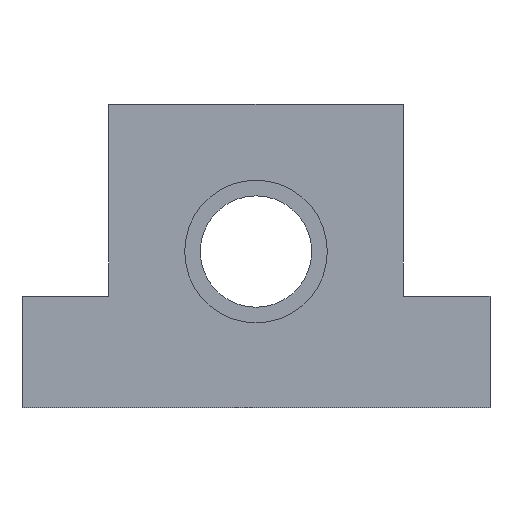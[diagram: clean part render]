
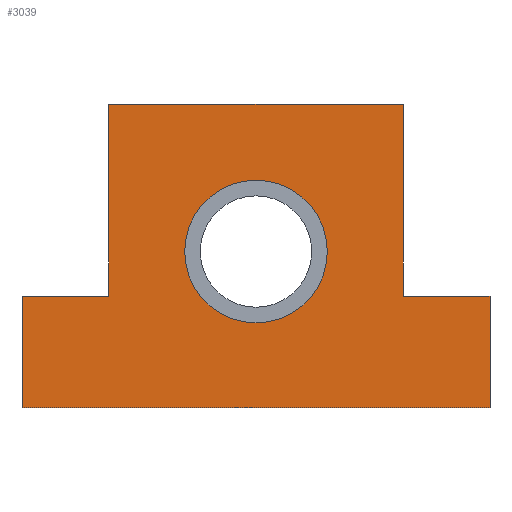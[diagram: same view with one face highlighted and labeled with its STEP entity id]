
A CAD part, left-side view. The second image highlights one B-rep face of the part: STEP entity #3039.
In plain terms, the highlighted planar face has unit normal (-1, 0, 0).
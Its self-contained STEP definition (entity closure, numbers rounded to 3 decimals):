
#2025=CARTESIAN_POINT('',(-48.,16.,0.0));
#2026=VERTEX_POINT('',#2025);
#2027=CARTESIAN_POINT('',(-48.,0.0,0.0));
#2028=DIRECTION('',(1.0,0.0,0.0));
#2029=DIRECTION('',(0.0,1.0,0.0));
#2030=AXIS2_PLACEMENT_3D('',#2027,#2028,#2029);
#2031=CIRCLE('',#2030,16.);
#2032=EDGE_CURVE('',#2026,#2026,#2031,.T.);
#2742=CARTESIAN_POINT('',(-48.,-52.5,-35.));
#2743=VERTEX_POINT('',#2742);
#2744=CARTESIAN_POINT('',(-48.,52.5,-35.));
#2745=VERTEX_POINT('',#2744);
#2746=CARTESIAN_POINT('',(-48.,-52.5,-35.));
#2747=DIRECTION('',(0.0,1.0,0.0));
#2748=VECTOR('',#2747,105.0);
#2749=LINE('',#2746,#2748);
#2750=EDGE_CURVE('',#2743,#2745,#2749,.T.);
#2800=CARTESIAN_POINT('',(-48.,52.5,-10.));
#2801=VERTEX_POINT('',#2800);
#2802=CARTESIAN_POINT('',(-48.,52.5,-35.));
#2803=DIRECTION('',(0.0,0.0,1.0));
#2804=VECTOR('',#2803,25.);
#2805=LINE('',#2802,#2804);
#2806=EDGE_CURVE('',#2745,#2801,#2805,.T.);
#2831=CARTESIAN_POINT('',(-48.,33.,-10.));
#2832=VERTEX_POINT('',#2831);
#2833=CARTESIAN_POINT('',(-48.,52.5,-10.));
#2834=DIRECTION('',(0.0,-1.0,0.0));
#2835=VECTOR('',#2834,19.5);
#2836=LINE('',#2833,#2835);
#2837=EDGE_CURVE('',#2801,#2832,#2836,.T.);
#2871=CARTESIAN_POINT('',(-48.,33.0,33.0));
#2872=VERTEX_POINT('',#2871);
#2873=CARTESIAN_POINT('',(-48.,33.,-10.));
#2874=DIRECTION('',(0.0,0.0,1.0));
#2875=VECTOR('',#2874,43.);
#2876=LINE('',#2873,#2875);
#2877=EDGE_CURVE('',#2832,#2872,#2876,.T.);
#2902=CARTESIAN_POINT('',(-48.,-33.0,33.0));
#2903=VERTEX_POINT('',#2902);
#2904=CARTESIAN_POINT('',(-48.,33.0,33.0));
#2905=DIRECTION('',(0.0,-1.0,0.0));
#2906=VECTOR('',#2905,66.0);
#2907=LINE('',#2904,#2906);
#2908=EDGE_CURVE('',#2872,#2903,#2907,.T.);
#2933=CARTESIAN_POINT('',(-48.,-33.,-10.));
#2934=VERTEX_POINT('',#2933);
#2935=CARTESIAN_POINT('',(-48.,-33.0,33.0));
#2936=DIRECTION('',(0.0,0.0,-1.0));
#2937=VECTOR('',#2936,43.);
#2938=LINE('',#2935,#2937);
#2939=EDGE_CURVE('',#2903,#2934,#2938,.T.);
#2964=CARTESIAN_POINT('',(-48.,-52.5,-10.));
#2965=VERTEX_POINT('',#2964);
#2966=CARTESIAN_POINT('',(-48.,-33.,-10.));
#2967=DIRECTION('',(0.0,-1.0,0.0));
#2968=VECTOR('',#2967,19.5);
#2969=LINE('',#2966,#2968);
#2970=EDGE_CURVE('',#2934,#2965,#2969,.T.);
#3004=CARTESIAN_POINT('',(-48.,-52.5,-10.));
#3005=DIRECTION('',(0.0,0.0,-1.0));
#3006=VECTOR('',#3005,25.);
#3007=LINE('',#3004,#3006);
#3008=EDGE_CURVE('',#2965,#2743,#3007,.T.);
#3021=CARTESIAN_POINT('',(-48.,0.,-5.847));
#3022=DIRECTION('',(1.0,0.0,0.0));
#3023=DIRECTION('',(0.0,0.0,-1.0));
#3024=AXIS2_PLACEMENT_3D('',#3021,#3022,#3023);
#3025=PLANE('',#3024);
#3026=ORIENTED_EDGE('',*,*,#2750,.F.);
#3027=ORIENTED_EDGE('',*,*,#3008,.F.);
#3028=ORIENTED_EDGE('',*,*,#2970,.F.);
#3029=ORIENTED_EDGE('',*,*,#2939,.F.);
#3030=ORIENTED_EDGE('',*,*,#2908,.F.);
#3031=ORIENTED_EDGE('',*,*,#2877,.F.);
#3032=ORIENTED_EDGE('',*,*,#2837,.F.);
#3033=ORIENTED_EDGE('',*,*,#2806,.F.);
#3034=EDGE_LOOP('',(#3026,#3027,#3028,#3029,#3030,#3031,#3032,#3033));
#3035=FACE_OUTER_BOUND('',#3034,.T.);
#3036=ORIENTED_EDGE('',*,*,#2032,.T.);
#3037=EDGE_LOOP('',(#3036));
#3038=FACE_BOUND('',#3037,.T.);
#3039=ADVANCED_FACE('',(#3035,#3038),#3025,.F.);
